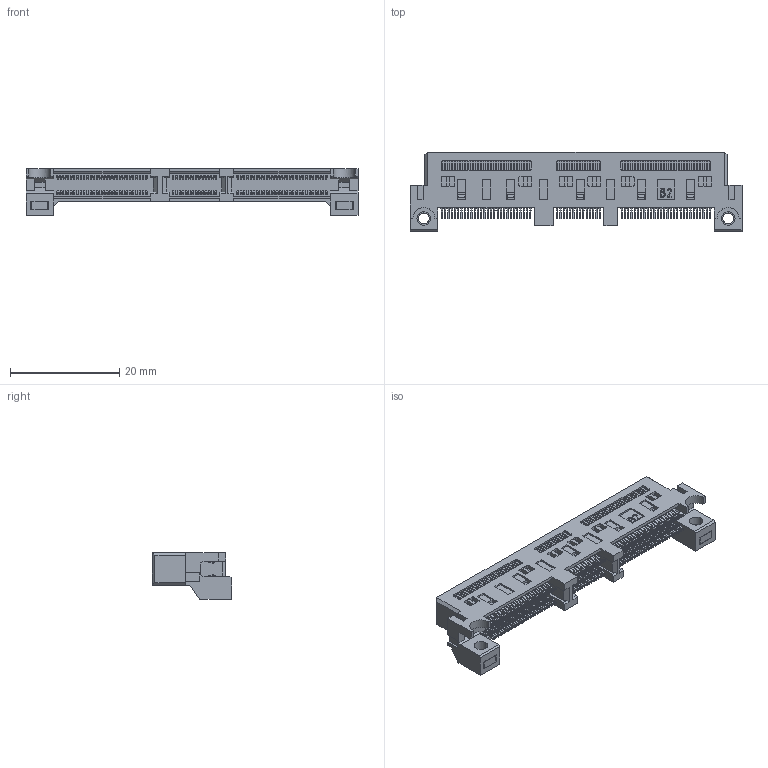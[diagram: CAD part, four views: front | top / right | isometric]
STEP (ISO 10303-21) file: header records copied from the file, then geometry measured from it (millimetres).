
FILE_DESCRIPTION((''),'2;1');
FILE_NAME('S-52727-140XX-XXX_REV','2021-12-23T13:20:28',('user'),(''),'CREO PARAMETRIC BY PTC INC, 2017110','CREO PARAMETRIC BY PTC INC, 2017110','');
FILE_SCHEMA(('AUTOMOTIVE_DESIGN { 1 0 10303 214 1 1 1 1 }'));
Products named in the file (1): S-52727-140XX-XXX_REV
Bounding box: 60.81 x 14.58 x 8.6 mm (x, y, z)
Volume: 2884.4 mm3; surface area: 4279.4 mm2
Topology: 1 solids, 1 shells, 9308 faces, 26647 edges, 18231 vertices
Faces by surface type: plane 5175, cylinder 2710, bspline 840, torus 280, cone 280, extrusion 23
Entity records: 460517 total; most frequent: CARTESIAN_POINT 132243, ORIENTED_EDGE 52174, DIRECTION 45813, PRESENTATION_STYLE_ASSIGNMENT 26719, STYLED_ITEM 26719, CURVE_STYLE 26718, EDGE_CURVE 26087, VECTOR 17121
